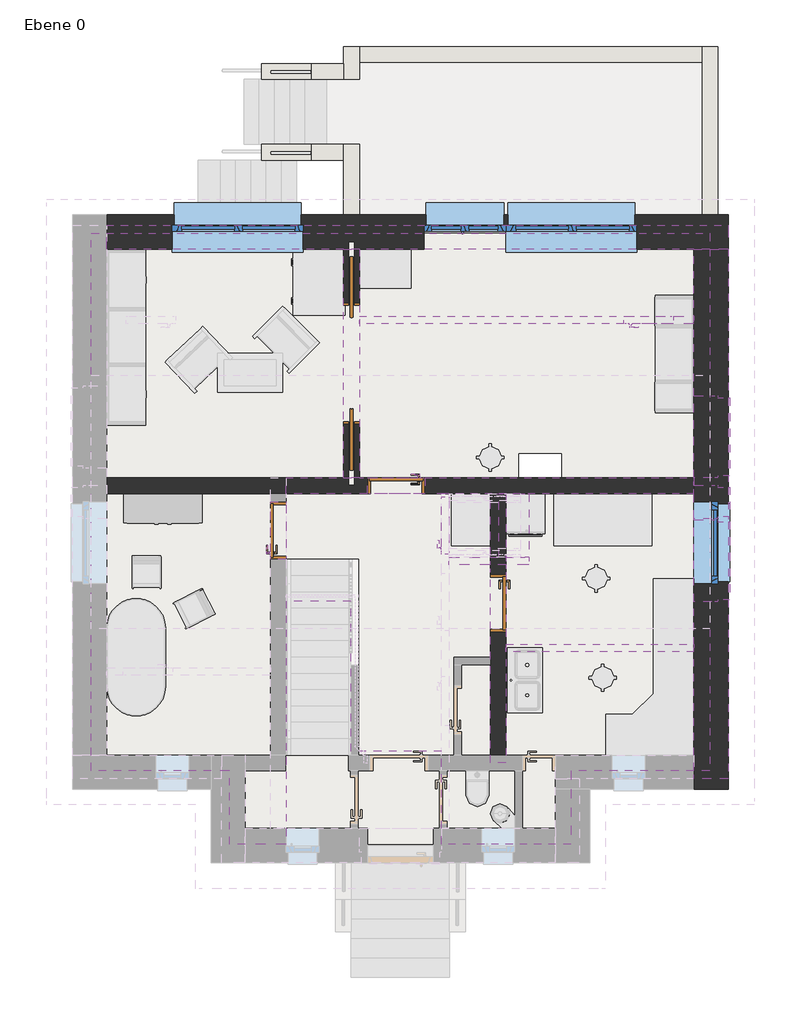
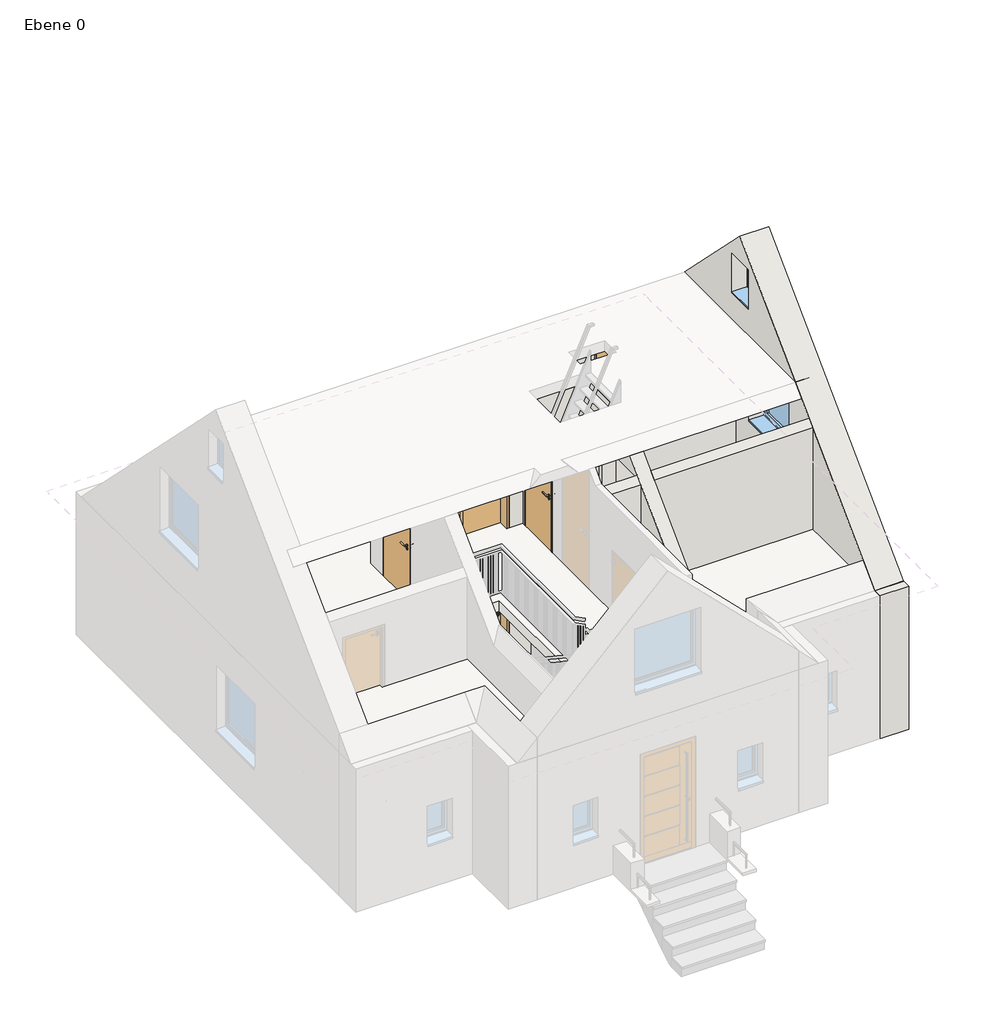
# One storey, part 2 of 3: 20 walls, 8 doors, 7 windows, 3 slabs.
"""IFC4 building model written with IfcOpenShell, lengths in millimetres."""

from ifc_helpers import new_model, si_unit, frame, origin, place, context, project, spatial, polyline, outline, extrude, faceted_brep, transform, mapped, element, save
from components import door_a362e75e, door_5454d597, door_c0c9e2e8, ml_1860_x_226_mit_rahmenstock_2_204127ef, ml_760_x_1200_513c8107, window_1260_x_2136_395e8edb, fe_1_tlg_drehkipp_1260_x_1260_6cbcbbed, fe_1_tlg_drehkipp_510_x_760_2ecf23b0, fe_2_tlg_drehkipp_mit_stulp_2010_x_1260_aa5a6977

model = new_model("IFC4")

# Units and contexts
model_context = context("Model", 3, world=origin())
ifc_project = project(units=[si_unit("LENGTHUNIT", "METRE", prefix="MILLI")], contexts=[model_context])

# Site, building, storey
site = spatial("IfcSite", under=ifc_project)
building = spatial("IfcBuilding", under=site)
storey = spatial("IfcBuildingStorey", under=building, Name="Ebene 0", Elevation=1000.0)

# Doors
placement = place(None, origin())
door_shape = door_a362e75e(model_context)
element("IfcDoor", 1, ObjectType="TU DF 1 - Rahmenstock flächenbündig variabel : ML - H - 885 x 2260", at=placement, inside=storey, context=model_context, shape_type="MappedRepresentation", body=[
    mapped(door_shape, transform((2682.5, 5620.0, 1000.0), x_axis=(-1.0, 0.0, 0.0), y_axis=(0.0, -1.0, 0.0), z_axis=(0.0, 0.0, 1.0))),
])
element("IfcDoor", 2, ObjectType="TU DF 1 - Rahmenstock flächenbündig variabel : ML - H - 885 x 2260", at=placement, inside=storey, context=model_context, shape_type="MappedRepresentation", body=[
    mapped(door_shape, transform((2682.5, 5620.0, 3750.0), x_axis=(-1.0, 0.0, 0.0), y_axis=(0.0, -1.0, 0.0), z_axis=(0.0, 0.0, 1.0))),
])
door_2_shape = door_5454d597(model_context)
element("IfcDoor", 3, ObjectType="TU DF 1 - Rahmenstock flächenbündig variabel : ML - H - 885 x 2260", at=placement, inside=storey, context=model_context, shape_type="MappedRepresentation", body=[
    mapped(door_2_shape, transform((870.0, 4932.5, 1000.0), x_axis=(0.0, 1.0, 0.0), y_axis=(-1.0, 0.0, 0.0), z_axis=(0.0, 0.0, 1.0))),
])
element("IfcDoor", 4, ObjectType="TU DF 1 - Rahmenstock flächenbündig variabel : ML - H - 885 x 2260", at=placement, inside=storey, context=model_context, shape_type="MappedRepresentation", body=[
    mapped(door_2_shape, transform((870.0, 4932.5, 3750.0), x_axis=(0.0, 1.0, 0.0), y_axis=(-1.0, 0.0, 0.0), z_axis=(0.0, 0.0, 1.0))),
])
door_3_shape = door_c0c9e2e8(model_context)
element("IfcDoor", 5, ObjectType="TU DF 1 - Rahmenstock flächenbündig variabel : ML - H - 885 x 2260", at=placement, inside=storey, context=model_context, shape_type="MappedRepresentation", body=[
    mapped(door_3_shape, transform((3432.5, 5010.0, 3750.0), x_axis=(0.0, 1.0, 0.0), y_axis=(-1.0, 0.0, 0.0), z_axis=(0.0, 0.0, 1.0))),
])
element("IfcDoor", 6, ObjectType="TU DF 1 - Rahmenstock flächenbündig variabel : ML - H - 885 x 2260", at=placement, inside=storey, context=model_context, shape_type="MappedRepresentation", body=[
    mapped(door_2_shape, transform((4245.0, 3817.5, 1100.0), x_axis=(0.0, -1.0, 0.0), y_axis=(1.0, 0.0, 0.0), z_axis=(0.0, 0.0, 1.0))),
])
ml_1860_x_226_mit_rahmenstock_2_shape = ml_1860_x_226_mit_rahmenstock_2_204127ef(model_context)
element("IfcDoor", 7, ObjectType="TU SF 2 - Schiebetüre in Wandtasche : ML - 1860 x 226 mit Rahmenstock 2", at=placement, inside=storey, context=model_context, shape_type="MappedRepresentation", body=[
    mapped(ml_1860_x_226_mit_rahmenstock_2_shape, transform((1995.1159714, 7495.0, 1000.0), x_axis=(0.0, 1.0, 0.0), y_axis=(-1.0, 0.0, 0.0), z_axis=(0.0, 0.0, 1.0))),
])
ml_760_x_1200_shape = ml_760_x_1200_513c8107(model_context)
element("IfcDoor", 8, ObjectType="TU DF 1 - Rahmenstock flächenbündig : ML -760 x 1200", at=placement, inside=storey, context=model_context, shape_type="MappedRepresentation", body=[
    mapped(ml_760_x_1200_shape, transform((6555.0, 8157.5, 3750.0), x_axis=(1.0, 0.0, 0.0), y_axis=(0.0, 1.0, 0.0), z_axis=(0.0, 0.0, 1.0))),
])

# Slabs
element("IfcSlab", 9, ObjectType="FB 100 Terrazzo", at=placement, inside=storey, context=model_context, shape_type="SweptSolid", body=[
    extrude(outline(polyline([(4365.0, 1490.0), (4365.0, 5500.0), (7250.0, 5500.0), (7250.0, 1490.0), (5125.0, 1490.0), (5125.0, 365.0), (4615.0, 365.0), (4615.0, 1490.0), (4365.0, 1490.0)])), frame((0.0, 0.0, 1000.0), z_axis=(0.0, 0.0, 1.0), x_axis=(1.0, 0.0, 0.0)), (0.0, 0.0, 1.0), 100.0),
])
element("IfcSlab", 10, ObjectType="STB 200", at=placement, inside=storey, context=model_context, shape_type="Brep", body=[
    faceted_brep([(-2000.0, 9490.0, 3550.0), (-1760.0, 9490.0, 3550.0), (7490.0, 9490.0, 3550.0), (7490.0, 9250.0, 3550.0), (7490.0, 1250.0, 3550.0), (7250.0, 1250.0, 3550.0), (5365.0, 1250.0, 3550.0), (5365.0, 965.0, 3550.0), (5365.0, 125.0, 3550.0), (5125.0, 125.0, 3550.0), (3375.0, 125.0, 3550.0), (3375.0, 365.0, 3550.0), (3375.0, 1550.0, 3550.0), (1990.0, 1550.0, 3550.0), (1990.0, 3847.3, 3550.0), (990.0, 3847.3, 3550.0), (990.0, 365.0, 3550.0), (990.0, 125.0, 3550.0), (365.0, 125.0, 3550.0), (125.0, 125.0, 3550.0), (125.0, 1250.0, 3550.0), (-160.0, 1250.0, 3550.0), (-2000.0, 1250.0, 3550.0), (-2000.0, 1490.0, 3550.0), (5215.0, 5751.2341615, 3550.0), (5215.0, 6111.2341615, 3550.0), (4565.0, 6111.2341615, 3550.0), (4565.0, 5751.2341615, 3550.0), (7490.0, 9490.0, 3750.0), (-1760.0, 9490.0, 3750.0), (-2000.0, 9490.0, 3750.0), (-2000.0, 1490.0, 3750.0), (-2000.0, 1250.0, 3750.0), (-160.0, 1250.0, 3750.0), (125.0, 1250.0, 3750.0), (125.0, 125.0, 3750.0), (365.0, 125.0, 3750.0), (990.0, 125.0, 3750.0), (990.0, 365.0, 3750.0), (990.0, 3847.3, 3750.0), (1990.0, 3847.3, 3750.0), (1990.0, 1550.0, 3750.0), (3375.0, 1550.0, 3750.0), (3375.0, 365.0, 3750.0), (3375.0, 125.0, 3750.0), (5125.0, 125.0, 3750.0), (5365.0, 125.0, 3750.0), (5365.0, 965.0, 3750.0), (5365.0, 1250.0, 3750.0), (7250.0, 1250.0, 3750.0), (7490.0, 1250.0, 3750.0), (7490.0, 9250.0, 3750.0), (5215.0, 6111.2341615, 3750.0), (5215.0, 5751.2341615, 3750.0), (4565.0, 5751.2341615, 3750.0), (4565.0, 6111.2341615, 3750.0)], [[[0, 1, 2, 3, 4, 5, 6, 7, 8, 9, 10, 11, 12, 13, 14, 15, 16, 17, 18, 19, 20, 21, 22, 23], [24, 25, 26, 27]], [[28, 29, 30, 31, 32, 33, 34, 35, 36, 37, 38, 39, 40, 41, 42, 43, 44, 45, 46, 47, 48, 49, 50, 51], [52, 53, 54, 55]], [[2, 1, 0, 30, 29, 28]], [[4, 3, 2, 28, 51, 50]], [[6, 5, 4, 50, 49, 48]], [[8, 7, 6, 48, 47, 46]], [[10, 9, 8, 46, 45, 44]], [[20, 19, 35, 34]], [[22, 21, 20, 34, 33, 32]], [[0, 23, 22, 32, 31, 30]], [[17, 16, 15, 39, 38, 37]], [[14, 13, 41, 40]], [[15, 14, 40, 39]], [[12, 11, 10, 44, 43, 42]], [[13, 12, 42, 41]], [[19, 18, 17, 37, 36, 35]], [[24, 53, 52, 25]], [[25, 52, 55, 26]], [[26, 55, 54, 27]], [[53, 24, 27, 54]]]),
])
element("IfcSlab", 11, ObjectType="STB 200", at=placement, inside=storey, context=model_context, shape_type="Brep", body=[
    faceted_brep([(-2000.0, 9490.0, 800.0), (-1825.0, 9490.0, 800.0), (7490.0, 9490.0, 800.0), (7490.0, 9315.0, 800.0), (7490.0, 1250.0, 800.0), (7315.0, 1250.0, 800.0), (5365.0, 1250.0, 800.0), (5365.0, 965.0, 800.0), (5365.0, 125.0, 800.0), (5190.0, 125.0, 800.0), (300.0, 125.0, 800.0), (125.0, 125.0, 800.0), (125.0, 1250.0, 800.0), (-160.0, 1250.0, 800.0), (-2000.0, 1250.0, 800.0), (-2000.0, 1425.0, 800.0), (990.0, 4490.0, 800.0), (990.0, 1490.0, 800.0), (1990.0, 1490.0, 800.0), (1990.0, 4490.0, 800.0), (5215.0, 5751.2341615, 800.0), (5215.0, 6111.2341615, 800.0), (4565.0, 6111.2341615, 800.0), (4565.0, 5751.2341615, 800.0), (7490.0, 9490.0, 1000.0), (-1825.0, 9490.0, 1000.0), (-2000.0, 9490.0, 1000.0), (-2000.0, 1425.0, 1000.0), (-2000.0, 1250.0, 1000.0), (-160.0, 1250.0, 1000.0), (125.0, 1250.0, 1000.0), (125.0, 125.0, 1000.0), (300.0, 125.0, 1000.0), (5190.0, 125.0, 1000.0), (5365.0, 125.0, 1000.0), (5365.0, 965.0, 1000.0), (5365.0, 1250.0, 1000.0), (7315.0, 1250.0, 1000.0), (7490.0, 1250.0, 1000.0), (7490.0, 9315.0, 1000.0), (990.0, 1490.0, 1000.0), (990.0, 4490.0, 1000.0), (1990.0, 4490.0, 1000.0), (1990.0, 1490.0, 1000.0), (5215.0, 6111.2341615, 1000.0), (5215.0, 5751.2341615, 1000.0), (4565.0, 5751.2341615, 1000.0), (4565.0, 6111.2341615, 1000.0)], [[[0, 1, 2, 3, 4, 5, 6, 7, 8, 9, 10, 11, 12, 13, 14, 15], [16, 17, 18, 19], [20, 21, 22, 23]], [[24, 25, 26, 27, 28, 29, 30, 31, 32, 33, 34, 35, 36, 37, 38, 39], [40, 41, 42, 43], [44, 45, 46, 47]], [[2, 1, 0, 26, 25, 24]], [[4, 3, 2, 24, 39, 38]], [[6, 5, 4, 38, 37, 36]], [[8, 7, 6, 36, 35, 34]], [[11, 10, 9, 8, 34, 33, 32, 31]], [[12, 11, 31, 30]], [[14, 13, 12, 30, 29, 28]], [[0, 15, 14, 28, 27, 26]], [[17, 16, 41, 40]], [[18, 17, 40, 43]], [[19, 18, 43, 42]], [[16, 19, 42, 41]], [[20, 45, 44, 21]], [[21, 44, 47, 22]], [[22, 47, 46, 23]], [[45, 20, 23, 46]]]),
])

# Walls
element("IfcWall", 12, ObjectType="Ziegel+WD hart 365+140+2", at=placement, inside=storey, context=model_context, shape_type="Brep", body=[
    faceted_brep([(-1760.0, 9250.0, 1000.0), (1875.0, 9250.0, 1000.0), (1952.6159714, 9250.0, 1000.0), (1952.6159714, 9250.0, 3260.0), (2037.6159714, 9250.0, 3260.0), (2037.6159714, 9250.0, 1000.0), (2115.0, 9250.0, 1000.0), (3105.0, 9250.0, 1000.0), (3105.0, 9250.0, 3135.0), (4365.0, 9250.0, 3135.0), (4365.0, 9250.0, 3110.0), (6375.0, 9250.0, 3110.0), (6375.0, 9250.0, 1850.0), (4365.0, 9250.0, 1850.0), (4365.0, 9250.0, 1000.0), (7250.0, 9250.0, 1000.0), (7775.0, 9250.0, 1000.0), (7775.0, 9250.0, 3750.0), (7490.0, 9250.0, 3750.0), (7490.0, 9250.0, 3550.0), (7250.0, 9250.0, 3550.0), (2115.0, 9250.0, 3550.0), (1875.0, 9250.0, 3550.0), (-1760.0, 9250.0, 3550.0), (-760.0, 9250.0, 3110.0), (1250.0, 9250.0, 3110.0), (1250.0, 9250.0, 1850.0), (-760.0, 9250.0, 1850.0), (7775.0, 9775.0, 1000.0), (-1760.0, 9775.0, 1000.0), (-1760.0, 9775.0, 3750.0), (7775.0, 9775.0, 3750.0), (1220.0, 9775.0, 1865.0), (1220.0, 9775.0, 3080.0), (-730.0, 9775.0, 3080.0), (-730.0, 9775.0, 1865.0), (4335.0, 9775.0, 1195.0), (4335.0, 9775.0, 3105.0), (3135.0, 9775.0, 3105.0), (3135.0, 9775.0, 1195.0), (6345.0, 9775.0, 1865.0), (6345.0, 9775.0, 3080.0), (4395.0, 9775.0, 3080.0), (4395.0, 9775.0, 1865.0), (4365.0, 9615.0, 1000.0), (3105.0, 9615.0, 1000.0), (2037.6159714, 9360.0, 1000.0), (1952.6159714, 9360.0, 1000.0), (-1760.0, 9490.0, 3750.0), (7490.0, 9490.0, 3750.0), (7775.0, 9615.0, 3750.0), (-1760.0, 9490.0, 3550.0), (-760.0, 9615.0, 3110.0), (1250.0, 9615.0, 3110.0), (1250.0, 9615.0, 1850.0), (-760.0, 9615.0, 1850.0), (1220.0, 9615.0, 3080.0), (1220.0, 9615.0, 1870.0), (-730.0, 9615.0, 1870.0), (-730.0, 9615.0, 3080.0), (1952.6159714, 9360.0, 3260.0), (2037.6159714, 9360.0, 3260.0), (3105.0, 9615.0, 3135.0), (4365.0, 9615.0, 3135.0), (4365.0, 9615.0, 3110.0), (4365.0, 9615.0, 1850.0), (6375.0, 9615.0, 1850.0), (6375.0, 9615.0, 3110.0), (4335.0, 9615.0, 3105.0), (4335.0, 9615.0, 1200.0), (3135.0, 9615.0, 1200.0), (3135.0, 9615.0, 3105.0), (6345.0, 9615.0, 3080.0), (6345.0, 9615.0, 1870.0), (4395.0, 9615.0, 1870.0), (4395.0, 9615.0, 3080.0), (7490.0, 9490.0, 3550.0)], [[[0, 1, 2, 3, 4, 5, 6, 7, 8, 9, 10, 11, 12, 13, 14, 15, 16, 17, 18, 19, 20, 21, 22, 23], [24, 25, 26, 27]], [[28, 29, 30, 31], [32, 33, 34, 35], [36, 37, 38, 39], [40, 41, 42, 43]], [[29, 28, 16, 15, 14, 44, 45, 7, 6, 5, 46, 47, 2, 1, 0]], [[31, 30, 48, 49, 18, 17, 50]], [[30, 29, 0, 23, 51, 48]], [[52, 53, 25, 24]], [[54, 55, 27, 26]], [[52, 24, 27, 55]], [[25, 53, 54, 26]], [[53, 52, 55, 54], [56, 57, 58, 59]], [[57, 56, 33, 32]], [[58, 57, 32, 35]], [[59, 58, 35, 34]], [[56, 59, 34, 33]], [[60, 61, 4, 3]], [[47, 60, 3, 2]], [[61, 46, 5, 4]], [[61, 60, 47, 46]], [[62, 63, 9, 8]], [[62, 8, 7, 45]], [[9, 63, 64, 10]], [[44, 14, 13, 65]], [[63, 62, 45, 44, 65, 66, 67, 64], [68, 69, 70, 71], [72, 73, 74, 75]], [[69, 68, 37, 36]], [[70, 69, 36, 39]], [[71, 70, 39, 38]], [[68, 71, 38, 37]], [[64, 67, 11, 10]], [[66, 65, 13, 12]], [[67, 66, 12, 11]], [[73, 72, 41, 40]], [[74, 73, 40, 43]], [[75, 74, 43, 42]], [[72, 75, 42, 41]], [[19, 76, 51, 23, 22, 21, 20]], [[76, 49, 48, 51]], [[49, 76, 19, 18]], [[16, 28, 31, 50, 17]]]),
])
element("IfcWall", 13, ObjectType="Ziegel+WD hart 365+140+2", at=placement, inside=storey, context=model_context, shape_type="Brep", body=[
    faceted_brep([(7250.0, 9250.0, 1000.0), (7250.0, 5740.0, 1000.0), (7250.0, 5500.0, 1000.0), (7250.0, 1490.0, 1000.0), (7250.0, 965.0, 1000.0), (7250.0, 965.0, 3750.0), (7250.0, 1125.0, 3750.0), (7250.0, 1250.0, 3750.0), (7250.0, 1250.0, 3550.0), (7250.0, 1490.0, 3550.0), (7250.0, 5500.0, 3550.0), (7250.0, 5740.0, 3550.0), (7250.0, 9250.0, 3550.0), (7250.0, 5375.0, 3110.0), (7250.0, 4115.0, 3110.0), (7250.0, 4115.0, 1850.0), (7250.0, 5375.0, 1850.0), (7775.0, 965.0, 1000.0), (7775.0, 9250.0, 1000.0), (7775.0, 9250.0, 3750.0), (7775.0, 1125.0, 3750.0), (7775.0, 965.0, 3750.0), (7775.0, 4145.0, 1860.0), (7775.0, 4145.0, 3080.0), (7775.0, 5345.0, 3080.0), (7775.0, 5345.0, 1860.0), (7615.0, 5375.0, 3110.0), (7615.0, 4115.0, 3110.0), (7615.0, 5375.0, 1850.0), (7615.0, 4115.0, 1850.0), (7615.0, 4145.0, 3080.0), (7615.0, 4145.0, 1870.0), (7615.0, 5345.0, 1870.0), (7615.0, 5345.0, 3080.0), (7490.0, 1250.0, 3550.0), (7490.0, 9250.0, 3550.0), (7490.0, 1250.0, 3750.0), (7490.0, 9250.0, 3750.0)], [[[0, 1, 2, 3, 4, 5, 6, 7, 8, 9, 10, 11, 12], [13, 14, 15, 16]], [[17, 18, 19, 20, 21], [22, 23, 24, 25]], [[5, 4, 17, 21]], [[26, 27, 14, 13]], [[28, 16, 15, 29]], [[26, 13, 16, 28]], [[14, 27, 29, 15]], [[27, 26, 28, 29], [30, 31, 32, 33]], [[31, 30, 23, 22]], [[32, 31, 22, 25]], [[33, 32, 25, 24]], [[30, 33, 24, 23]], [[8, 34, 35, 12, 11, 10, 9]], [[34, 36, 37, 35]], [[36, 34, 8, 7]], [[19, 18, 0, 12, 35, 37]], [[4, 3, 2, 1, 0, 18, 17]], [[21, 20, 19, 37, 36, 7, 6, 5]]]),
])
element("IfcWall", 14, ObjectType="Ziegel+WD hart 365+140+2", at=placement, inside=storey, context=model_context, shape_type="Brep", body=[
    faceted_brep([(7250.0, 9250.0, 3750.0), (7250.0, 5740.0, 3750.0), (7250.0, 5500.0, 3750.0), (7250.0, 3190.0, 3750.0), (7250.0, 3075.0, 3750.0), (7250.0, 1490.0, 3750.0), (7250.0, 1250.0, 3750.0), (7250.0, 1125.0, 3750.0), (7250.0, 1125.0, 3753.0508653), (7250.0, 1128.0508653, 3753.0508653), (7250.0, 1490.0, 4115.0), (7250.0, 3075.0, 5700.0), (7250.0, 3190.0, 5815.0), (7250.0, 5370.0, 7995.0), (7250.0, 9250.0, 4115.0), (7250.0, 5100.0, 5860.0), (7250.0, 3840.0, 5860.0), (7250.0, 3840.0, 4600.0), (7250.0, 5100.0, 4600.0), (7250.0, 7000.0, 5860.0), (7250.0, 5740.0, 5860.0), (7250.0, 5740.0, 4600.0), (7250.0, 7000.0, 4600.0), (7250.0, 5625.0, 7510.0), (7250.0, 5115.0, 7510.0), (7250.0, 5115.0, 6750.0), (7250.0, 5625.0, 6750.0), (7775.0, 1125.0, 3750.0), (7775.0, 9250.0, 3750.0), (7775.0, 9250.0, 4115.0), (7775.0, 5370.0, 7995.0), (7775.0, 1128.0508653, 3753.0508653), (7775.0, 1125.0, 3753.0508653), (7775.0, 3870.0, 4610.0), (7775.0, 3870.0, 5830.0), (7775.0, 5070.0, 5830.0), (7775.0, 5070.0, 4610.0), (7775.0, 5770.0, 4610.0), (7775.0, 5770.0, 5830.0), (7775.0, 6970.0, 5830.0), (7775.0, 6970.0, 4610.0), (7775.0, 5145.0, 6760.0), (7775.0, 5145.0, 7480.0), (7775.0, 5595.0, 7480.0), (7775.0, 5595.0, 6760.0), (7490.0, 9250.0, 3750.0), (7615.0, 5100.0, 5860.0), (7615.0, 3840.0, 5860.0), (7615.0, 5100.0, 4600.0), (7615.0, 3840.0, 4600.0), (7615.0, 3870.0, 5830.0), (7615.0, 3870.0, 4620.0), (7615.0, 5070.0, 4620.0), (7615.0, 5070.0, 5830.0), (7615.0, 7000.0, 5860.0), (7615.0, 5740.0, 5860.0), (7615.0, 7000.0, 4600.0), (7615.0, 5740.0, 4600.0), (7615.0, 5770.0, 5830.0), (7615.0, 5770.0, 4620.0), (7615.0, 6970.0, 4620.0), (7615.0, 6970.0, 5830.0), (7615.0, 5625.0, 7510.0), (7615.0, 5115.0, 7510.0), (7615.0, 5625.0, 6750.0), (7615.0, 5115.0, 6750.0), (7615.0, 5145.0, 7480.0), (7615.0, 5145.0, 6770.0), (7615.0, 5595.0, 6770.0), (7615.0, 5595.0, 7480.0)], [[[0, 1, 2, 3, 4, 5, 6, 7, 8, 9, 10, 11, 12, 13, 14], [15, 16, 17, 18], [19, 20, 21, 22], [23, 24, 25, 26]], [[27, 28, 29, 30, 31, 32], [33, 34, 35, 36], [37, 38, 39, 40], [41, 42, 43, 44]], [[7, 6, 5, 4, 3, 2, 1, 0, 45, 28, 27]], [[0, 14, 29, 28, 45]], [[8, 7, 27, 32]], [[46, 47, 16, 15]], [[48, 18, 17, 49]], [[46, 15, 18, 48]], [[16, 47, 49, 17]], [[47, 46, 48, 49], [50, 51, 52, 53]], [[51, 50, 34, 33]], [[52, 51, 33, 36]], [[53, 52, 36, 35]], [[50, 53, 35, 34]], [[54, 55, 20, 19]], [[56, 22, 21, 57]], [[54, 19, 22, 56]], [[20, 55, 57, 21]], [[55, 54, 56, 57], [58, 59, 60, 61]], [[59, 58, 38, 37]], [[60, 59, 37, 40]], [[61, 60, 40, 39]], [[58, 61, 39, 38]], [[29, 14, 13, 30]], [[13, 12, 11, 10, 9, 31, 30]], [[8, 32, 31, 9]], [[62, 63, 24, 23]], [[64, 26, 25, 65]], [[62, 23, 26, 64]], [[24, 63, 65, 25]], [[63, 62, 64, 65], [66, 67, 68, 69]], [[67, 66, 42, 41]], [[68, 67, 41, 44]], [[69, 68, 44, 43]], [[66, 69, 43, 42]]]),
])
element("IfcWall", 15, ObjectType="Klinker 240", at=placement, inside=storey, context=model_context, shape_type="SweptSolid", body=[
    extrude(outline(polyline([(1000.0, 1875.0), (2000.0, 1875.0), (2000.0, 1380.0), (1500.0, 1380.0), (1500.0, 615.0), (1000.0, 615.0), (1000.0, 1875.0)])), frame((0.0, 10615.0, 0.0), z_axis=(0.0, 1.0, 0.0), x_axis=(0.0, 0.0, 1.0)), (0.0, 0.0, 1.0), 240.0),
])
element("IfcWall", 16, ObjectType="Klinker 240", at=placement, inside=storey, context=model_context, shape_type="SweptSolid", body=[
    extrude(outline(polyline([(1000.0, 1875.0), (2000.0, 1875.0), (2000.0, 1380.0), (1500.0, 1380.0), (1500.0, 615.0), (1000.0, 615.0), (1000.0, 1875.0)])), frame((0.0, 11855.0, 0.0), z_axis=(0.0, 1.0, 0.0), x_axis=(0.0, 0.0, 1.0)), (0.0, 0.0, 1.0), 240.0),
])
element("IfcWall", 17, ObjectType="Ziegel 115", at=placement, inside=storey, context=model_context, shape_type="Brep", body=[
    faceted_brep([(-1760.0, 8100.0, 5265.0), (-1760.0, 8100.0, 3750.0), (-1465.0, 8100.0, 3750.0), (-1465.0, 8100.0, 4950.0), (-705.0, 8100.0, 4950.0), (-705.0, 8100.0, 3750.0), (1875.0, 8100.0, 3750.0), (1875.0, 8100.0, 5265.0), (-1760.0, 8215.0, 3750.0), (-1760.0, 8215.0, 5150.0), (1875.0, 8215.0, 5150.0), (1875.0, 8215.0, 3750.0), (-705.0, 8215.0, 3750.0), (-705.0, 8215.0, 4950.0), (-1465.0, 8215.0, 4950.0), (-1465.0, 8215.0, 3750.0)], [[[0, 1, 2, 3, 4, 5, 6, 7]], [[8, 9, 10, 11, 12, 13, 14, 15]], [[1, 8, 15, 2]], [[5, 12, 11, 6]], [[1, 0, 9, 8]], [[7, 6, 11, 10]], [[3, 2, 15, 14]], [[5, 4, 13, 12]], [[4, 3, 14, 13]], [[9, 0, 7, 10]]]),
    faceted_brep([(7250.0, 8100.0, 3750.0), (7250.0, 8100.0, 5265.0), (2115.0, 8100.0, 5265.0), (2115.0, 8100.0, 3750.0), (6175.0, 8100.0, 3750.0), (6175.0, 8100.0, 4950.0), (6935.0, 8100.0, 4950.0), (6935.0, 8100.0, 3750.0), (7250.0, 8215.0, 5150.0), (7250.0, 8215.0, 3750.0), (6935.0, 8215.0, 3750.0), (6935.0, 8215.0, 4950.0), (6175.0, 8215.0, 4950.0), (6175.0, 8215.0, 3750.0), (2115.0, 8215.0, 3750.0), (2115.0, 8215.0, 5150.0)], [[[0, 1, 2, 3, 4, 5, 6, 7]], [[8, 9, 10, 11, 12, 13, 14, 15]], [[9, 0, 7, 10]], [[13, 4, 3, 14]], [[1, 0, 9, 8]], [[3, 2, 15, 14]], [[6, 11, 10, 7]], [[12, 5, 4, 13]], [[11, 6, 5, 12]], [[1, 8, 15, 2]]]),
])
element("IfcWall", 18, ObjectType="Ziegel 115", at=placement, inside=storey, context=model_context, shape_type="Brep", body=[
    faceted_brep([(7250.0, 3075.0, 3750.0), (7250.0, 3075.0, 5700.0), (4365.0, 3075.0, 5700.0), (4365.0, 3075.0, 3750.0), (7250.0, 3190.0, 5815.0), (7250.0, 3190.0, 3750.0), (4365.0, 3190.0, 3750.0), (4365.0, 3190.0, 5760.0), (4365.0, 3190.0, 5815.0)], [[[0, 1, 2, 3]], [[4, 5, 6, 7, 8]], [[5, 0, 3, 6]], [[1, 0, 5, 4]], [[3, 2, 8, 7, 6]], [[1, 4, 8, 2]]]),
    faceted_brep([(3490.0, 3075.0, 5750.0), (3490.0, 3075.0, 3750.0), (4125.0, 3075.0, 3750.0), (4125.0, 3075.0, 5700.0), (3540.0, 3075.0, 5700.0), (3490.0, 3190.0, 3750.0), (3490.0, 3190.0, 5815.0), (4125.0, 3190.0, 5815.0), (4125.0, 3190.0, 5760.0), (4125.0, 3190.0, 3750.0), (3490.0, 3125.0, 5750.0)], [[[0, 1, 2, 3, 4]], [[5, 6, 7, 8, 9]], [[1, 5, 9, 2]], [[1, 0, 10, 6, 5]], [[3, 2, 9, 8, 7]], [[0, 4, 10]], [[6, 10, 4, 3, 7]]]),
])
element("IfcWall", 19, ObjectType="Ziegel 115", at=placement, inside=storey, context=model_context, shape_type="Brep", body=[
    faceted_brep([(4125.0, 4520.0, 3750.0), (3490.0, 4520.0, 3750.0), (3490.0, 4520.0, 6050.0), (4125.0, 4520.0, 6050.0), (4365.0, 4520.0, 6050.0), (4590.0, 4520.0, 6050.0), (4593.9681704, 4520.0, 6050.0), (4718.8996138, 4520.0, 6050.0), (4719.1733767, 4520.0, 6050.0), (4365.0, 4520.0, 5215.6198126), (4125.0, 4520.0, 4650.2152448), (4125.0, 4405.0, 3750.0), (4125.0, 4405.0, 4650.2152448), (4365.0, 4405.0, 5215.6198126), (4719.1733767, 4405.0, 6050.0), (4365.0, 4405.0, 6050.0), (4125.0, 4405.0, 6050.0), (3490.0, 4405.0, 6050.0), (3490.0, 4405.0, 3750.0)], [[[0, 1, 2, 3, 4, 5, 6, 7, 8, 9, 10]], [[11, 12, 13, 14, 15, 16, 17, 18]], [[2, 1, 18, 17]], [[1, 0, 11, 18]], [[10, 9, 8, 14, 13, 12]], [[0, 10, 12, 11]], [[8, 7, 6, 5, 4, 3, 2, 17, 16, 15, 14]]]),
])
element("IfcWall", 20, ObjectType="Ziegel 115", at=placement, inside=storey, context=model_context, shape_type="SweptSolid", body=[
    extrude(outline(polyline([(5250.0, 4254.3883174), (5250.0, 4379.3197608), (6050.0, 4718.8996138), (6050.0, 4593.9681704), (5250.0, 4254.3883174)])), frame((0.0, 4520.0, 0.0), z_axis=(0.0, 1.0, 0.0), x_axis=(0.0, 0.0, 1.0)), (0.0, 0.0, 1.0), 980.0),
])
element("IfcWall", 21, ObjectType="Ziegel 240", at=placement, inside=storey, context=model_context, shape_type="Brep", body=[
    faceted_brep([(-1760.0, 5500.0, 3550.0), (-1760.0, 5500.0, 1000.0), (750.0, 5500.0, 1000.0), (990.0, 5500.0, 1000.0), (2240.0, 5500.0, 1000.0), (2240.0, 5500.0, 3260.0), (3125.0, 5500.0, 3260.0), (3125.0, 5500.0, 1000.0), (7250.0, 5500.0, 1000.0), (7250.0, 5500.0, 3550.0), (990.0, 5500.0, 3550.0), (750.0, 5500.0, 3550.0), (-1760.0, 5740.0, 1000.0), (-1760.0, 5740.0, 3550.0), (1875.0, 5740.0, 3550.0), (2115.0, 5740.0, 3550.0), (7250.0, 5740.0, 3550.0), (7250.0, 5740.0, 1000.0), (3125.0, 5740.0, 1000.0), (3125.0, 5740.0, 3260.0), (2240.0, 5740.0, 3260.0), (2240.0, 5740.0, 1000.0), (2115.0, 5740.0, 1000.0), (2037.6159714, 5740.0, 1000.0), (2037.6159714, 5740.0, 3260.0), (1952.6159714, 5740.0, 3260.0), (1952.6159714, 5740.0, 1000.0), (1875.0, 5740.0, 1000.0), (1952.6159714, 5630.0, 1000.0), (2037.6159714, 5630.0, 1000.0), (2037.6159714, 5630.0, 3260.0), (1952.6159714, 5630.0, 3260.0)], [[[0, 1, 2, 3, 4, 5, 6, 7, 8, 9, 10, 11]], [[12, 13, 14, 15, 16, 17, 18, 19, 20, 21, 22, 23, 24, 25, 26, 27]], [[1, 12, 27, 26, 28, 29, 23, 22, 21, 4, 3, 2]], [[17, 8, 7, 18]], [[1, 0, 13, 12]], [[9, 8, 17, 16]], [[5, 4, 21, 20]], [[7, 6, 19, 18]], [[6, 5, 20, 19]], [[30, 31, 25, 24]], [[31, 28, 26, 25]], [[31, 30, 29, 28]], [[29, 30, 24, 23]], [[0, 11, 10, 9, 16, 15, 14, 13]]]),
])
element("IfcWall", 22, ObjectType="Ziegel 240", at=placement, inside=storey, context=model_context, shape_type="Brep", body=[
    faceted_brep([(4125.0, 5500.0, 3550.0), (4125.0, 5500.0, 1000.0), (4125.0, 4260.0, 1000.0), (4125.0, 4260.0, 3360.0), (4125.0, 3375.0, 3360.0), (4125.0, 3375.0, 1000.0), (4125.0, 2990.0, 1000.0), (4125.0, 2875.0, 1000.0), (4125.0, 1490.0, 1000.0), (4125.0, 1490.0, 3550.0), (4125.0, 2875.0, 3550.0), (4125.0, 2990.0, 3550.0), (4365.0, 5500.0, 1000.0), (4365.0, 5500.0, 3550.0), (4365.0, 1490.0, 3550.0), (4365.0, 1490.0, 1000.0), (4365.0, 3375.0, 1000.0), (4365.0, 3375.0, 3360.0), (4365.0, 4260.0, 3360.0), (4365.0, 4260.0, 1000.0)], [[[0, 1, 2, 3, 4, 5, 6, 7, 8, 9, 10, 11]], [[12, 13, 14, 15, 16, 17, 18, 19]], [[1, 12, 19, 2]], [[15, 8, 7, 6, 5, 16]], [[1, 0, 13, 12]], [[9, 8, 15, 14]], [[4, 17, 16, 5]], [[18, 3, 2, 19]], [[17, 4, 3, 18]], [[0, 11, 10, 9, 14, 13]]]),
])
element("IfcWall", 23, ObjectType="Ziegel 240", at=placement, inside=storey, context=model_context, shape_type="Brep", body=[
    faceted_brep([(1875.0, 9250.0, 3550.0), (1875.0, 9250.0, 1000.0), (1875.0, 8425.0, 1000.0), (1875.0, 8425.0, 3260.0), (1875.0, 6565.0, 3260.0), (1875.0, 6565.0, 1000.0), (1875.0, 5740.0, 1000.0), (1875.0, 5740.0, 3550.0), (2115.0, 9250.0, 1000.0), (2115.0, 9250.0, 3550.0), (2115.0, 5740.0, 3550.0), (2115.0, 5740.0, 1000.0), (2115.0, 6565.0, 1000.0), (2115.0, 6565.0, 3260.0), (2115.0, 8425.0, 3260.0), (2115.0, 8425.0, 1000.0), (1952.6159714, 6565.0, 1000.0), (1952.6159714, 5740.0, 1000.0), (1952.6159714, 9250.0, 1000.0), (1952.6159714, 8425.0, 1000.0), (2037.6159714, 5740.0, 1000.0), (2037.6159714, 6565.0, 1000.0), (2037.6159714, 8425.0, 1000.0), (2037.6159714, 9250.0, 1000.0), (2037.6159714, 9250.0, 3260.0), (1952.6159714, 9250.0, 3260.0), (1952.6159714, 5740.0, 3260.0), (2037.6159714, 5740.0, 3260.0), (2037.6159714, 6565.0, 3260.0), (1952.6159714, 6565.0, 3260.0), (1952.6159714, 8425.0, 3260.0), (2037.6159714, 8425.0, 3260.0)], [[[0, 1, 2, 3, 4, 5, 6, 7]], [[8, 9, 10, 11, 12, 13, 14, 15]], [[6, 5, 16, 17]], [[2, 1, 18, 19]], [[12, 11, 20, 21]], [[8, 15, 22, 23]], [[1, 0, 9, 8, 23, 24, 25, 18]], [[7, 6, 17, 26, 27, 20, 11, 10]], [[13, 28, 27, 26, 29, 4, 3, 30, 25, 24, 31, 14]], [[28, 13, 12, 21]], [[4, 29, 16, 5]], [[30, 3, 2, 19]], [[14, 31, 22, 15]], [[16, 29, 26, 17]], [[30, 19, 18, 25]], [[28, 21, 20, 27]], [[22, 31, 24, 23]], [[0, 7, 10, 9]]]),
])
element("IfcWall", 24, ObjectType="Ziegel 240", at=placement, inside=storey, context=model_context, shape_type="Brep", body=[
    faceted_brep([(7250.0, 5500.0, 3750.0), (7250.0, 5500.0, 6050.0), (4590.0, 5500.0, 6050.0), (3490.0, 5500.0, 6050.0), (990.0, 5500.0, 6050.0), (990.0, 5500.0, 3750.0), (2240.0, 5500.0, 3750.0), (2240.0, 5500.0, 6010.0), (3125.0, 5500.0, 6010.0), (3125.0, 5500.0, 3750.0), (990.0, 5740.0, 6050.0), (1875.0, 5740.0, 6050.0), (2115.0, 5740.0, 6050.0), (7250.0, 5740.0, 6050.0), (7250.0, 5740.0, 5860.0), (7250.0, 5740.0, 4600.0), (7250.0, 5740.0, 3750.0), (3125.0, 5740.0, 3750.0), (3125.0, 5740.0, 6010.0), (2240.0, 5740.0, 6010.0), (2240.0, 5740.0, 3750.0), (2115.0, 5740.0, 3750.0), (1875.0, 5740.0, 3750.0), (990.0, 5740.0, 3750.0)], [[[0, 1, 2, 3, 4, 5, 6, 7, 8, 9]], [[10, 11, 12, 13, 14, 15, 16, 17, 18, 19, 20, 21, 22, 23]], [[16, 0, 9, 17]], [[5, 23, 22, 21, 20, 6]], [[1, 0, 16, 15, 14, 13]], [[19, 7, 6, 20]], [[8, 18, 17, 9]], [[7, 19, 18, 8]], [[5, 4, 10, 23]], [[13, 12, 11, 10, 4, 3, 2, 1]]]),
])
element("IfcWall", 25, ObjectType="Ziegel 240", at=placement, inside=storey, context=model_context, shape_type="Brep", body=[
    faceted_brep([(4125.0, 1370.0, 3750.0), (4125.0, 1370.0, 3995.0), (4125.0, 3425.0, 6050.0), (4125.0, 4405.0, 6050.0), (4125.0, 4405.0, 4650.2152448), (4125.0, 4520.0, 4650.2152448), (4125.0, 4520.0, 6050.0), (4125.0, 4560.0, 6050.0), (4125.0, 4560.0, 5300.9090909), (4125.0, 5500.0, 5300.9090909), (4125.0, 5500.0, 3750.0), (4125.0, 4520.0, 3750.0), (4125.0, 4405.0, 3750.0), (4125.0, 4290.0, 3750.0), (4125.0, 4290.0, 5760.0), (4125.0, 3190.0, 5760.0), (4125.0, 3190.0, 3750.0), (4365.0, 1370.0, 3995.0), (4365.0, 1370.0, 3750.0), (4365.0, 3190.0, 3750.0), (4365.0, 3190.0, 5760.0), (4365.0, 4290.0, 5760.0), (4365.0, 4290.0, 3750.0), (4365.0, 5500.0, 3750.0), (4365.0, 5500.0, 5300.9090909), (4365.0, 4560.0, 5300.9090909), (4365.0, 4560.0, 6050.0), (4365.0, 4520.0, 6050.0), (4365.0, 4520.0, 5215.6198126), (4365.0, 4405.0, 5215.6198126), (4365.0, 4405.0, 6050.0), (4365.0, 3425.0, 6050.0)], [[[0, 1, 2, 3, 4, 5, 6, 7, 8, 9, 10, 11, 12, 13, 14, 15, 16]], [[17, 18, 19, 20, 21, 22, 23, 24, 25, 26, 27, 28, 29, 30, 31]], [[10, 9, 24, 23]], [[15, 20, 19, 16]], [[20, 15, 14, 21]], [[21, 14, 13, 22]], [[0, 16, 19, 18]], [[23, 22, 13, 12, 11, 10]], [[1, 0, 18, 17]], [[2, 1, 17, 31]], [[8, 7, 26, 25]], [[9, 8, 25, 24]], [[5, 28, 27, 6]], [[29, 4, 3, 30]], [[28, 5, 4, 29]], [[26, 7, 6, 27]], [[2, 31, 30, 3]]]),
])
element("IfcWall", 26, ObjectType="Ziegel 240", at=placement, inside=storey, context=model_context, shape_type="SweptSolid", body=[
    extrude(outline(polyline([(9250.0, 3750.0), (5740.0, 3750.0), (5740.0, 6050.0), (7315.0, 6050.0), (9250.0, 4115.0), (9250.0, 3750.0)])), frame((1875.0, 0.0, 0.0), z_axis=(1.0, 0.0, 0.0), x_axis=(0.0, 1.0, 0.0)), (0.0, 0.0, 1.0), 240.0),
])
element("IfcWall", 27, ObjectType="Ziegel 240", at=placement, inside=storey, context=model_context, shape_type="Brep", body=[
    faceted_brep([(7615.0, 9775.0, 1000.0), (7615.0, 12355.0, 1000.0), (7615.0, 12355.0, 2000.0), (7615.0, 9775.0, 2000.0), (7375.0, 9775.0, 1000.0), (7375.0, 9775.0, 2000.0), (7375.0, 12115.0, 2000.0), (7375.0, 12355.0, 2000.0), (7375.0, 12355.0, 1000.0), (7375.0, 12235.0, 1000.0), (7375.0, 12115.0, 1000.0), (7495.0, 9775.0, 1000.0)], [[[0, 1, 2, 3]], [[4, 5, 6, 7, 8, 9, 10]], [[1, 0, 11, 4, 10, 9, 8]], [[3, 2, 7, 6, 5]], [[2, 1, 8, 7]], [[0, 3, 5, 4, 11]]]),
])
element("IfcWall", 28, ObjectType="Ziegel 240", at=placement, inside=storey, context=model_context, shape_type="SweptSolid", body=[
    extrude(outline(polyline([(2115.0, 12355.0), (7375.0, 12355.0), (7375.0, 12115.0), (2115.0, 12115.0), (2115.0, 12355.0)])), frame((0.0, 0.0, 1000.0), z_axis=(0.0, 0.0, 1.0), x_axis=(1.0, 0.0, 0.0)), (0.0, 0.0, 1.0), 1000.0),
])
element("IfcWall", 29, ObjectType="Ziegel 240", at=placement, inside=storey, context=model_context, shape_type="Brep", body=[
    faceted_brep([(1875.0, 12355.0, 1000.0), (1875.0, 12095.0, 1000.0), (1875.0, 11855.0, 1000.0), (1875.0, 11855.0, 2000.0), (1875.0, 12095.0, 2000.0), (1875.0, 12355.0, 2000.0), (2115.0, 12355.0, 1000.0), (2115.0, 12355.0, 2000.0), (2115.0, 12115.0, 2000.0), (2115.0, 11855.0, 2000.0), (2115.0, 11855.0, 1000.0), (2115.0, 12115.0, 1000.0)], [[[0, 1, 2, 3, 4, 5]], [[6, 7, 8, 9, 10, 11]], [[2, 1, 0, 6, 11, 10]], [[5, 4, 3, 9, 8, 7]], [[0, 5, 7, 6]], [[3, 2, 10, 9]]]),
])
element("IfcWall", 30, ObjectType="Ziegel 240", at=placement, inside=storey, context=model_context, shape_type="Brep", body=[
    faceted_brep([(2115.0, 9775.0, 1000.0), (2115.0, 10855.0, 1000.0), (2115.0, 10855.0, 2000.0), (2115.0, 9775.0, 2000.0), (1875.0, 9775.0, 1000.0), (1875.0, 9775.0, 2000.0), (1875.0, 10615.0, 2000.0), (1875.0, 10855.0, 2000.0), (1875.0, 10855.0, 1000.0), (1875.0, 10615.0, 1000.0)], [[[0, 1, 2, 3]], [[4, 5, 6, 7, 8, 9]], [[1, 0, 4, 9, 8]], [[3, 2, 7, 6, 5]], [[2, 1, 8, 7]], [[0, 3, 5, 4]]]),
])
element("IfcWall", 31, ObjectType="Ziegel 365", at=placement, inside=storey, context=model_context, shape_type="Brep", body=[
    faceted_brep([(-1760.0, 9250.0, 3750.0), (1875.0, 9250.0, 3750.0), (2115.0, 9250.0, 3750.0), (7250.0, 9250.0, 3750.0), (7490.0, 9250.0, 3750.0), (7775.0, 9250.0, 3750.0), (7775.0, 9250.0, 4115.0), (7250.0, 9250.0, 4115.0), (2115.0, 9250.0, 4115.0), (1875.0, 9250.0, 4115.0), (-1760.0, 9250.0, 4115.0), (-1760.0, 9615.0, 3750.0), (-1760.0, 9615.0, 3753.0508653), (7775.0, 9615.0, 3753.0508653), (7775.0, 9615.0, 3750.0), (-1760.0, 9611.9491347, 3753.0508653), (7775.0, 9611.9491347, 3753.0508653)], [[[0, 1, 2, 3, 4, 5, 6, 7, 8, 9, 10]], [[11, 12, 13, 14]], [[5, 4, 3, 2, 1, 0, 11, 14]], [[0, 10, 15, 12, 11]], [[6, 5, 14, 13, 16]], [[10, 9, 8, 7, 6, 16, 15]], [[16, 13, 12, 15]]]),
])

# Windows
window_1260_x_2136_shape = window_1260_x_2136_395e8edb(model_context)
element("IfcWindow", 32, ObjectType="FE TÜR 2 tlg - DrehKipp mit Stulp : 1260 x 2136", at=placement, inside=storey, context=model_context, shape_type="MappedRepresentation", body=[
    mapped(window_1260_x_2136_shape, transform((3735.0, 9512.5, 1000.0), x_axis=(1.0, 0.0, 0.0), y_axis=(0.0, 1.0, 0.0), z_axis=(0.0, 0.0, 1.0))),
])
fe_1_tlg_drehkipp_1260_x_1260_shape = fe_1_tlg_drehkipp_1260_x_1260_6cbcbbed(model_context)
element("IfcWindow", 33, ObjectType="FE 1 tlg - DrehKipp : 1260 x 1260", at=placement, inside=storey, context=model_context, shape_type="MappedRepresentation", body=[
    mapped(fe_1_tlg_drehkipp_1260_x_1260_shape, transform((7512.5, 4745.0, 1000.0), x_axis=(0.0, -1.0, 0.0), y_axis=(1.0, 0.0, 0.0), z_axis=(0.0, 0.0, 1.0))),
])
element("IfcWindow", 34, ObjectType="FE 1 tlg - DrehKipp : 1260 x 1260", at=placement, inside=storey, context=model_context, shape_type="MappedRepresentation", body=[
    mapped(fe_1_tlg_drehkipp_1260_x_1260_shape, transform((7512.5, 4470.0, 3750.0), x_axis=(0.0, -1.0, 0.0), y_axis=(1.0, 0.0, 0.0), z_axis=(0.0, 0.0, 1.0))),
])
element("IfcWindow", 35, ObjectType="FE 1 tlg - DrehKipp : 1260 x 1260", at=placement, inside=storey, context=model_context, shape_type="MappedRepresentation", body=[
    mapped(fe_1_tlg_drehkipp_1260_x_1260_shape, transform((7512.5, 6370.0, 3750.0), x_axis=(0.0, -1.0, 0.0), y_axis=(1.0, 0.0, 0.0), z_axis=(0.0, 0.0, 1.0))),
])
fe_1_tlg_drehkipp_510_x_760_shape = fe_1_tlg_drehkipp_510_x_760_2ecf23b0(model_context)
element("IfcWindow", 36, ObjectType="FE 1 tlg - DrehKipp : 510 x 760", at=placement, inside=storey, context=model_context, shape_type="MappedRepresentation", body=[
    mapped(fe_1_tlg_drehkipp_510_x_760_shape, transform((7512.5, 5370.0, 5900.0), x_axis=(0.0, -1.0, 0.0), y_axis=(1.0, 0.0, 0.0), z_axis=(0.0, 0.0, 1.0))),
])
fe_2_tlg_drehkipp_mit_stulp_2010_x_1260_shape = fe_2_tlg_drehkipp_mit_stulp_2010_x_1260_aa5a6977(model_context)
element("IfcWindow", 37, ObjectType="FE 2 tlg - DrehKipp mit Stulp : 2010 x 1260", at=placement, inside=storey, context=model_context, shape_type="MappedRepresentation", body=[
    mapped(fe_2_tlg_drehkipp_mit_stulp_2010_x_1260_shape, transform((245.0, 9512.5, 1000.0), x_axis=(1.0, 0.0, 0.0), y_axis=(0.0, 1.0, 0.0), z_axis=(0.0, 0.0, 1.0))),
])
element("IfcWindow", 38, ObjectType="FE 2 tlg - DrehKipp mit Stulp : 2010 x 1260", at=placement, inside=storey, context=model_context, shape_type="MappedRepresentation", body=[
    mapped(fe_2_tlg_drehkipp_mit_stulp_2010_x_1260_shape, transform((5370.0, 9512.5, 1000.0), x_axis=(1.0, 0.0, 0.0), y_axis=(0.0, 1.0, 0.0), z_axis=(0.0, 0.0, 1.0))),
])

save(model, "model.ifc")
